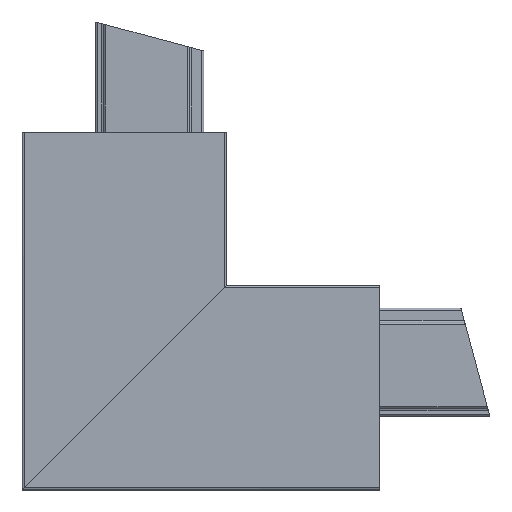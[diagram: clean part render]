
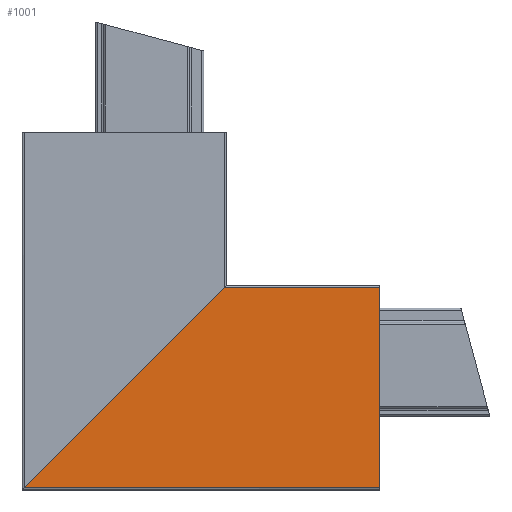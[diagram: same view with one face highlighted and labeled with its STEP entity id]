
A CAD part, top view. The second image highlights one B-rep face of the part: STEP entity #1001.
In plain terms, the highlighted planar face has unit normal (0, 0, 1).
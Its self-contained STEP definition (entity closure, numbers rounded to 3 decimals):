
#66=DIRECTION('',(0.,-1.,0.));
#67=VECTOR('',#66,19.6);
#68=CARTESIAN_POINT('',(50.,19.8,6.25));
#69=LINE('',#68,#67);
#229=DIRECTION('',(0.707,0.707,0.));
#230=VECTOR('',#229,27.719);
#231=CARTESIAN_POINT('',(15.2,0.2,6.25));
#232=LINE('',#231,#230);
#233=DIRECTION('',(-1.,0.,0.));
#234=VECTOR('',#233,15.2);
#235=CARTESIAN_POINT('',(50.,19.8,6.25));
#236=LINE('',#235,#234);
#237=DIRECTION('',(-1.,0.,0.));
#238=VECTOR('',#237,34.8);
#239=CARTESIAN_POINT('',(50.,0.2,6.25));
#240=LINE('',#239,#238);
#683=CARTESIAN_POINT('',(50.,0.2,6.25));
#685=VERTEX_POINT('',#683);
#696=CARTESIAN_POINT('',(50.,19.8,6.25));
#698=VERTEX_POINT('',#696);
#707=CARTESIAN_POINT('',(15.2,0.2,6.25));
#708=CARTESIAN_POINT('',(34.8,19.8,6.25));
#709=VERTEX_POINT('',#707);
#710=VERTEX_POINT('',#708);
#989=CARTESIAN_POINT('',(-50.,20.,6.25));
#990=DIRECTION('',(0.,0.,1.));
#991=DIRECTION('',(0.,-1.,0.));
#992=AXIS2_PLACEMENT_3D('',#989,#990,#991);
#993=PLANE('',#992);
#994=ORIENTED_EDGE('',*,*,#903,.T.);
#996=ORIENTED_EDGE('',*,*,#995,.F.);
#997=ORIENTED_EDGE('',*,*,#798,.T.);
#998=ORIENTED_EDGE('',*,*,#890,.T.);
#999=EDGE_LOOP('',(#994,#996,#997,#998));
#1000=FACE_OUTER_BOUND('',#999,.F.);
#1001=ADVANCED_FACE('',(#1000),#993,.T.);
#798=EDGE_CURVE('',#698,#685,#69,.T.);
#890=EDGE_CURVE('',#685,#709,#240,.T.);
#903=EDGE_CURVE('',#709,#710,#232,.T.);
#995=EDGE_CURVE('',#698,#710,#236,.T.);
